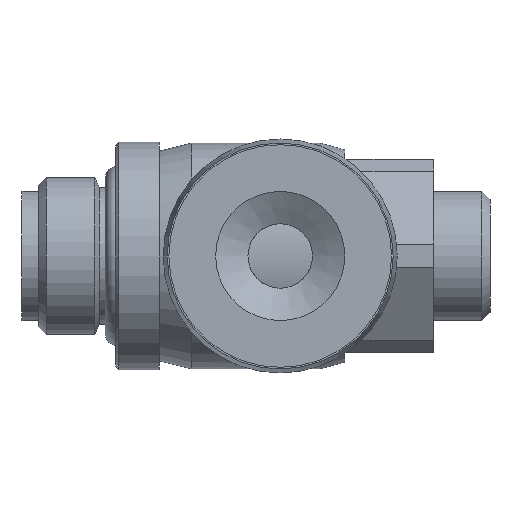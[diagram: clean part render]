
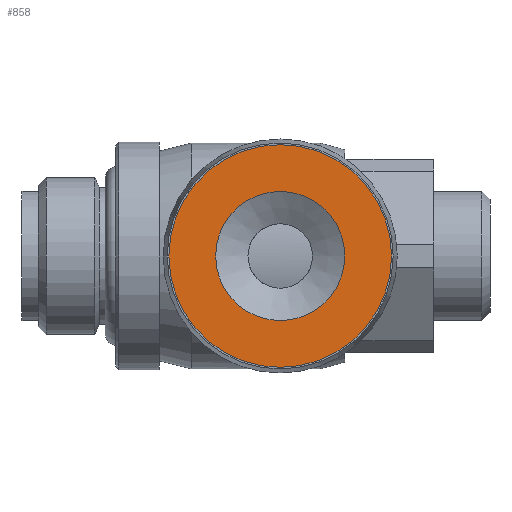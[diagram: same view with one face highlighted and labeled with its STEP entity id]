
A CAD part, front view. The second image highlights one B-rep face of the part: STEP entity #858.
In plain terms, the highlighted planar face has unit normal (0, -1, 0).
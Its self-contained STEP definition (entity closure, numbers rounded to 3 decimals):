
#84=FACE_BOUND('',#305,.T.);
#147=CIRCLE('',#961,6.9);
#148=CIRCLE('',#963,4.);
#208=FACE_OUTER_BOUND('',#304,.T.);
#304=EDGE_LOOP('',(#762));
#305=EDGE_LOOP('',(#763));
#478=VERTEX_POINT('',#1528);
#479=VERTEX_POINT('',#1531);
#574=EDGE_CURVE('',#478,#478,#147,.T.);
#575=EDGE_CURVE('',#479,#479,#148,.T.);
#762=ORIENTED_EDGE('',*,*,#574,.T.);
#763=ORIENTED_EDGE('',*,*,#575,.F.);
#800=PLANE('',#962);
#858=ADVANCED_FACE('',(#208,#84),#800,.T.);
#961=AXIS2_PLACEMENT_3D('',#1529,#1212,#1213);
#962=AXIS2_PLACEMENT_3D('',#1530,#1214,#1215);
#963=AXIS2_PLACEMENT_3D('',#1532,#1216,#1217);
#1212=DIRECTION('center_axis',(0.,-1.,0.));
#1213=DIRECTION('ref_axis',(1.,0.,0.));
#1214=DIRECTION('center_axis',(0.,-1.,0.));
#1215=DIRECTION('ref_axis',(0.,0.,-1.));
#1216=DIRECTION('center_axis',(0.,-1.,0.));
#1217=DIRECTION('ref_axis',(1.,0.,0.));
#1528=CARTESIAN_POINT('',(6.9,-27.,0.));
#1529=CARTESIAN_POINT('Origin',(0.,-27.,0.));
#1530=CARTESIAN_POINT('Origin',(4.,-27.,0.));
#1531=CARTESIAN_POINT('',(4.,-27.,0.));
#1532=CARTESIAN_POINT('Origin',(0.,-27.,0.));
